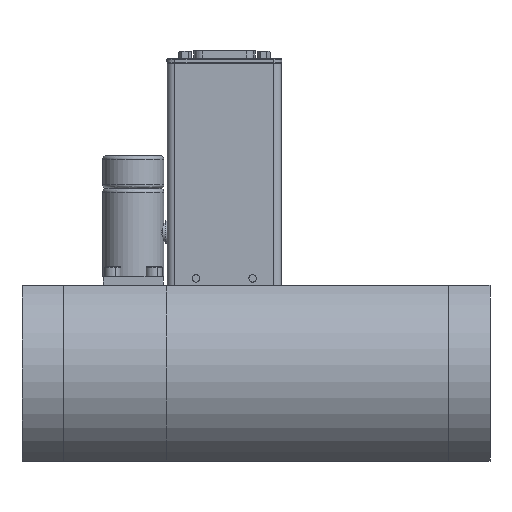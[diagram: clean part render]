
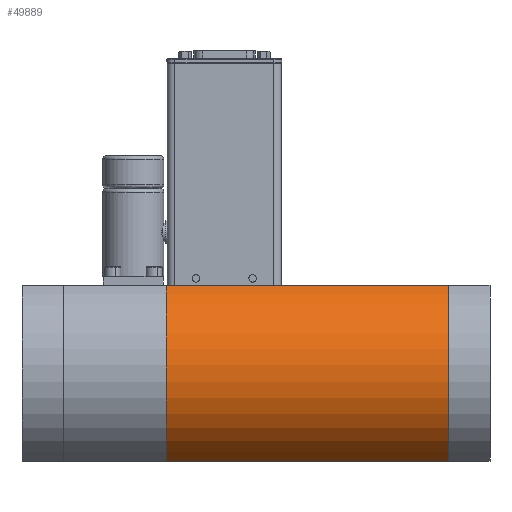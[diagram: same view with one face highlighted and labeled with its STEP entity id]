
A CAD part, left-side view. The second image highlights one B-rep face of the part: STEP entity #49889.
In plain terms, the highlighted cylindrical face has radius 42 mm (diameter 84 mm), a partial arc.
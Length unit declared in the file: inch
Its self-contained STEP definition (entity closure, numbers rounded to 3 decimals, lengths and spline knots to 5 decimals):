
#1507 = DIRECTION ( 'NONE',  ( 0., 0., 1. ) ) ;
#2183 = EDGE_CURVE ( 'NONE', #53435, #61760, #42575, .T. ) ;
#5785 = VERTEX_POINT ( 'NONE', #45090 ) ;
#11343 = VERTEX_POINT ( 'NONE', #16525 ) ;
#12692 = DIRECTION ( 'NONE',  ( 0., 0., 1. ) ) ;
#12756 = EDGE_CURVE ( 'NONE', #11343, #5785, #45114, .T. ) ;
#12818 = CARTESIAN_POINT ( 'NONE',  ( -0.76007, 0., 1.4685 ) ) ;
#13056 = CARTESIAN_POINT ( 'NONE',  ( 0., 4.72441, 0. ) ) ;
#13275 = CARTESIAN_POINT ( 'NONE',  ( 0., 0., 0. ) ) ;
#14026 = CARTESIAN_POINT ( 'NONE',  ( -0.76007, 0., -1.4685 ) ) ;
#16525 = CARTESIAN_POINT ( 'NONE',  ( -0.76007, 0., 1.4685 ) ) ;
#17030 = DIRECTION ( 'NONE',  ( 0., 1., 0. ) ) ;
#18563 = ORIENTED_EDGE ( 'NONE', *, *, #2183, .T. ) ;
#19017 = CYLINDRICAL_SURFACE ( 'NONE', #43306, 1.65354 ) ;
#19524 = EDGE_LOOP ( 'NONE', ( #32094, #18563, #50854, #46545 ) ) ;
#19567 = VECTOR ( 'NONE', #17030, 39.37008 ) ;
#19778 = LINE ( 'NONE', #14026, #40851 ) ;
#23948 = LINE ( 'NONE', #12818, #19567 ) ;
#32094 = ORIENTED_EDGE ( 'NONE', *, *, #68617, .T. ) ;
#36360 = DIRECTION ( 'NONE',  ( 0., -1., 0. ) ) ;
#36756 = CARTESIAN_POINT ( 'NONE',  ( 0., 0., 0. ) ) ;
#37706 = DIRECTION ( 'NONE',  ( 0., -1., 0. ) ) ;
#40851 = VECTOR ( 'NONE', #37706, 39.37008 ) ;
#41288 = CARTESIAN_POINT ( 'NONE',  ( -0.76007, 4.72441, -1.4685 ) ) ;
#42575 = CIRCLE ( 'NONE', #69252, 1.65354 ) ;
#42698 = AXIS2_PLACEMENT_3D ( 'NONE', #36756, #64874, #12692 ) ;
#43306 = AXIS2_PLACEMENT_3D ( 'NONE', #13275, #54785, #1507 ) ;
#45090 = CARTESIAN_POINT ( 'NONE',  ( -0.76007, 0., -1.4685 ) ) ;
#45114 = CIRCLE ( 'NONE', #42698, 1.65354 ) ;
#46545 = ORIENTED_EDGE ( 'NONE', *, *, #12756, .F. ) ;
#47403 = DIRECTION ( 'NONE',  ( 0., 0., 1. ) ) ;
#49889 = ADVANCED_FACE ( 'NONE', ( #60859 ), #19017, .T. ) ;
#49893 = EDGE_CURVE ( 'NONE', #61760, #5785, #19778, .T. ) ;
#50854 = ORIENTED_EDGE ( 'NONE', *, *, #49893, .T. ) ;
#53435 = VERTEX_POINT ( 'NONE', #70373 ) ;
#54785 = DIRECTION ( 'NONE',  ( 0., 1., 0. ) ) ;
#60859 = FACE_OUTER_BOUND ( 'NONE', #19524, .T. ) ;
#61760 = VERTEX_POINT ( 'NONE', #41288 ) ;
#64874 = DIRECTION ( 'NONE',  ( 0., -1., 0. ) ) ;
#68617 = EDGE_CURVE ( 'NONE', #11343, #53435, #23948, .T. ) ;
#69252 = AXIS2_PLACEMENT_3D ( 'NONE', #13056, #36360, #47403 ) ;
#70373 = CARTESIAN_POINT ( 'NONE',  ( -0.76007, 4.72441, 1.4685 ) ) ;
